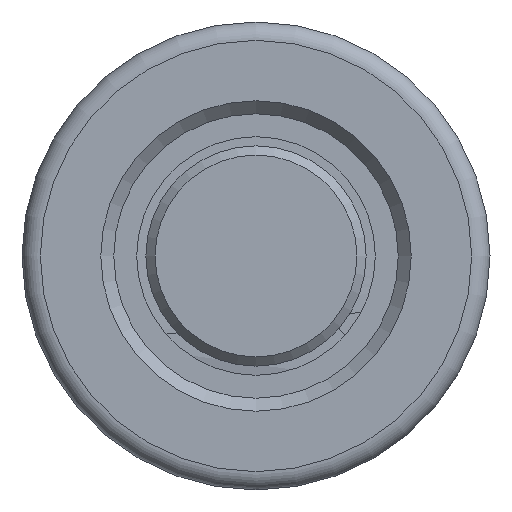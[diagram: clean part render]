
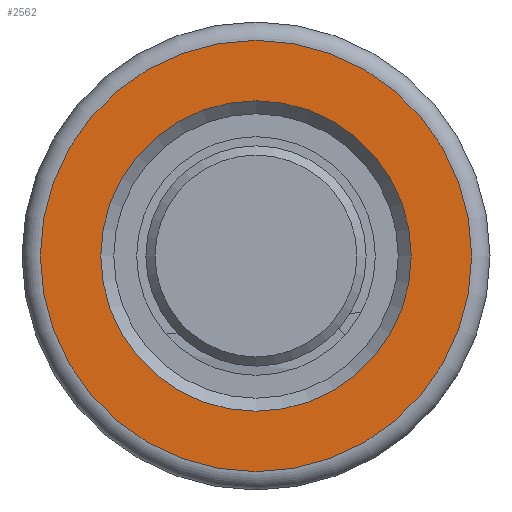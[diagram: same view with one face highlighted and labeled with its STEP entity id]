
A CAD part, left-side view. The second image highlights one B-rep face of the part: STEP entity #2562.
In plain terms, the highlighted planar face has unit normal (-1, 0, 0) by its records, which use the part's own axes.
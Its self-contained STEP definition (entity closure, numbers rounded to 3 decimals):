
#49 = ORIENTED_EDGE ( 'NONE', *, *, #3809, .T. ) ;
#116 = DIRECTION ( 'NONE',  ( 1., 0., 0. ) ) ;
#662 = VERTEX_POINT ( 'NONE', #2588 ) ;
#1096 = AXIS2_PLACEMENT_3D ( 'NONE', #3287, #2846, #2064 ) ;
#1253 = FACE_OUTER_BOUND ( 'NONE', #2396, .T. ) ;
#1327 = EDGE_LOOP ( 'NONE', ( #49 ) ) ;
#1425 = CIRCLE ( 'NONE', #3344, 11.75 ) ;
#1509 = CIRCLE ( 'NONE', #2680, 8.457 ) ;
#1831 = CARTESIAN_POINT ( 'NONE',  ( -49., 11.75, 0. ) ) ;
#1931 = DIRECTION ( 'NONE',  ( 1., 0., 0. ) ) ;
#2011 = FACE_BOUND ( 'NONE', #1327, .T. ) ;
#2064 = DIRECTION ( 'NONE',  ( 0., 1., 0. ) ) ;
#2396 = EDGE_LOOP ( 'NONE', ( #4130 ) ) ;
#2495 = EDGE_CURVE ( 'NONE', #4959, #4959, #1425, .T. ) ;
#2562 = ADVANCED_FACE ( 'NONE', ( #2011, #1253 ), #3716, .T. ) ;
#2588 = CARTESIAN_POINT ( 'NONE',  ( -49., 8.457, 0. ) ) ;
#2680 = AXIS2_PLACEMENT_3D ( 'NONE', #4383, #1931, #3971 ) ;
#2846 = DIRECTION ( 'NONE',  ( -1., 0., 0. ) ) ;
#3287 = CARTESIAN_POINT ( 'NONE',  ( -49., 10.104, 0. ) ) ;
#3344 = AXIS2_PLACEMENT_3D ( 'NONE', #5089, #116, #4819 ) ;
#3716 = PLANE ( 'NONE',  #1096 ) ;
#3809 = EDGE_CURVE ( 'NONE', #662, #662, #1509, .T. ) ;
#3971 = DIRECTION ( 'NONE',  ( 0., 1., 0. ) ) ;
#4130 = ORIENTED_EDGE ( 'NONE', *, *, #2495, .F. ) ;
#4383 = CARTESIAN_POINT ( 'NONE',  ( -49., 0., 0. ) ) ;
#4819 = DIRECTION ( 'NONE',  ( 0., 1., 0. ) ) ;
#4959 = VERTEX_POINT ( 'NONE', #1831 ) ;
#5089 = CARTESIAN_POINT ( 'NONE',  ( -49., 0., 0. ) ) ;
